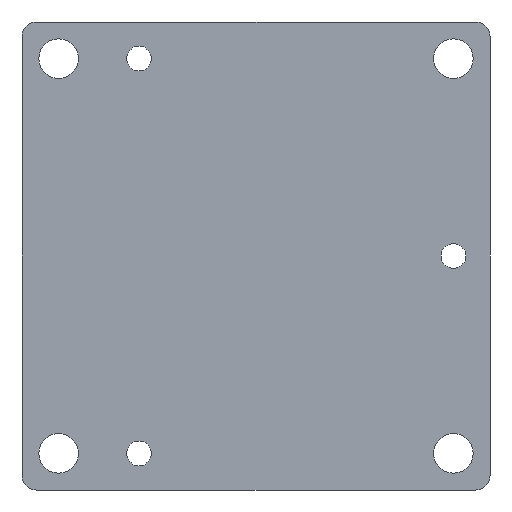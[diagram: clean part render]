
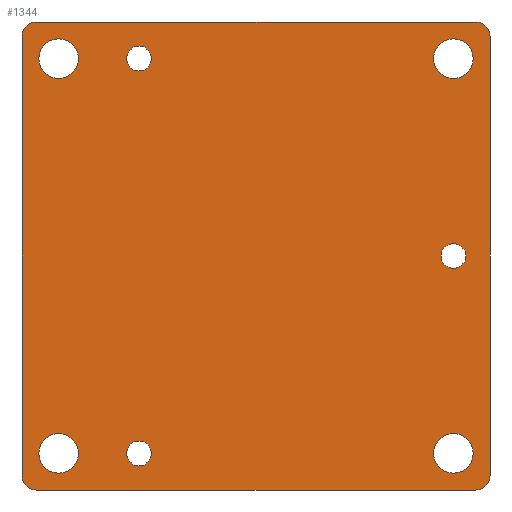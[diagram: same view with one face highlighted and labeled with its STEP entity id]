
A CAD part, front view. The second image highlights one B-rep face of the part: STEP entity #1344.
In plain terms, the highlighted planar face has unit normal (0, -1, 0).
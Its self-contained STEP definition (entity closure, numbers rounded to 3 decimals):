
#15 = CARTESIAN_POINT ( 'NONE',  ( -80., 0., -75. ) ) ;
#36 = CARTESIAN_POINT ( 'NONE',  ( 80., 0., 75. ) ) ;
#37 = DIRECTION ( 'NONE',  ( 1., 0., 0. ) ) ;
#39 = AXIS2_PLACEMENT_3D ( 'NONE', #1432, #776, #511 ) ;
#43 = FACE_BOUND ( 'NONE', #1324, .T. ) ;
#57 = CARTESIAN_POINT ( 'NONE',  ( 80., 0., 80. ) ) ;
#59 = EDGE_CURVE ( 'NONE', #1317, #762, #584, .T. ) ;
#60 = DIRECTION ( 'NONE',  ( 0., 1., 0. ) ) ;
#63 = FACE_BOUND ( 'NONE', #978, .T. ) ;
#65 = ORIENTED_EDGE ( 'NONE', *, *, #1237, .T. ) ;
#67 = AXIS2_PLACEMENT_3D ( 'NONE', #720, #289, #834 ) ;
#70 = AXIS2_PLACEMENT_3D ( 'NONE', #307, #617, #747 ) ;
#72 = VERTEX_POINT ( 'NONE', #866 ) ;
#74 = CARTESIAN_POINT ( 'NONE',  ( -75., 0., 75. ) ) ;
#81 = VERTEX_POINT ( 'NONE', #964 ) ;
#98 = VECTOR ( 'NONE', #1290, 1000. ) ;
#101 = ORIENTED_EDGE ( 'NONE', *, *, #723, .T. ) ;
#104 = EDGE_LOOP ( 'NONE', ( #1431, #65, #1293, #101, #1095, #1057, #552, #279 ) ) ;
#111 = CARTESIAN_POINT ( 'NONE',  ( 67.5, 0., 67.5 ) ) ;
#133 = VERTEX_POINT ( 'NONE', #15 ) ;
#141 = CARTESIAN_POINT ( 'NONE',  ( -35.75, 0., 67.5 ) ) ;
#161 = VECTOR ( 'NONE', #593, 1000. ) ;
#171 = FACE_BOUND ( 'NONE', #1265, .T. ) ;
#175 = CARTESIAN_POINT ( 'NONE',  ( -67.5, 0., 67.5 ) ) ;
#177 = PLANE ( 'NONE',  #696 ) ;
#187 = ORIENTED_EDGE ( 'NONE', *, *, #416, .T. ) ;
#210 = ORIENTED_EDGE ( 'NONE', *, *, #1241, .T. ) ;
#213 = EDGE_LOOP ( 'NONE', ( #758 ) ) ;
#237 = EDGE_CURVE ( 'NONE', #72, #72, #702, .T. ) ;
#240 = DIRECTION ( 'NONE',  ( 0., -1., 0. ) ) ;
#279 = ORIENTED_EDGE ( 'NONE', *, *, #934, .T. ) ;
#289 = DIRECTION ( 'NONE',  ( 0., 1., 0. ) ) ;
#307 = CARTESIAN_POINT ( 'NONE',  ( 67.5, 0., 0. ) ) ;
#310 = AXIS2_PLACEMENT_3D ( 'NONE', #111, #415, #1302 ) ;
#311 = VERTEX_POINT ( 'NONE', #536 ) ;
#314 = VERTEX_POINT ( 'NONE', #329 ) ;
#329 = CARTESIAN_POINT ( 'NONE',  ( 75., 0., -80. ) ) ;
#333 = VECTOR ( 'NONE', #1313, 1000. ) ;
#335 = AXIS2_PLACEMENT_3D ( 'NONE', #1200, #1427, #1062 ) ;
#337 = VECTOR ( 'NONE', #1112, 1000. ) ;
#343 = EDGE_CURVE ( 'NONE', #631, #631, #466, .T. ) ;
#390 = CIRCLE ( 'NONE', #67, 4.25 ) ;
#410 = CARTESIAN_POINT ( 'NONE',  ( 74.25, 0., -67.5 ) ) ;
#415 = DIRECTION ( 'NONE',  ( 0., 1., 0. ) ) ;
#416 = EDGE_CURVE ( 'NONE', #81, #81, #1118, .T. ) ;
#431 = DIRECTION ( 'NONE',  ( 0., 1., 0. ) ) ;
#458 = ORIENTED_EDGE ( 'NONE', *, *, #343, .T. ) ;
#463 = CIRCLE ( 'NONE', #70, 4.25 ) ;
#466 = CIRCLE ( 'NONE', #1161, 6.75 ) ;
#475 = EDGE_CURVE ( 'NONE', #1405, #1405, #603, .T. ) ;
#476 = CARTESIAN_POINT ( 'NONE',  ( -75., 0., 80. ) ) ;
#490 = CARTESIAN_POINT ( 'NONE',  ( 75., 0., 80. ) ) ;
#495 = FACE_OUTER_BOUND ( 'NONE', #104, .T. ) ;
#496 = DIRECTION ( 'NONE',  ( 0., -1., 0. ) ) ;
#497 = EDGE_LOOP ( 'NONE', ( #781 ) ) ;
#507 = EDGE_CURVE ( 'NONE', #314, #513, #1277, .T. ) ;
#511 = DIRECTION ( 'NONE',  ( 1., 0., 0. ) ) ;
#513 = VERTEX_POINT ( 'NONE', #731 ) ;
#536 = CARTESIAN_POINT ( 'NONE',  ( 71.75, 0., 0. ) ) ;
#549 = EDGE_CURVE ( 'NONE', #311, #311, #463, .T. ) ;
#552 = ORIENTED_EDGE ( 'NONE', *, *, #920, .F. ) ;
#560 = CARTESIAN_POINT ( 'NONE',  ( -75., 0., -75. ) ) ;
#561 = LINE ( 'NONE', #785, #333 ) ;
#581 = AXIS2_PLACEMENT_3D ( 'NONE', #175, #60, #1278 ) ;
#584 = LINE ( 'NONE', #685, #337 ) ;
#593 = DIRECTION ( 'NONE',  ( 1., 0., 0. ) ) ;
#599 = ORIENTED_EDGE ( 'NONE', *, *, #237, .T. ) ;
#603 = CIRCLE ( 'NONE', #335, 6.75 ) ;
#614 = CARTESIAN_POINT ( 'NONE',  ( 80., 0., 80. ) ) ;
#617 = DIRECTION ( 'NONE',  ( 0., 1., 0. ) ) ;
#631 = VERTEX_POINT ( 'NONE', #743 ) ;
#638 = EDGE_CURVE ( 'NONE', #133, #1109, #561, .T. ) ;
#643 = DIRECTION ( 'NONE',  ( 1., 0., 0. ) ) ;
#685 = CARTESIAN_POINT ( 'NONE',  ( 80., 0., 80. ) ) ;
#696 = AXIS2_PLACEMENT_3D ( 'NONE', #614, #1058, #1260 ) ;
#699 = DIRECTION ( 'NONE',  ( 1., 0., 0. ) ) ;
#702 = CIRCLE ( 'NONE', #581, 6.75 ) ;
#709 = VERTEX_POINT ( 'NONE', #476 ) ;
#720 = CARTESIAN_POINT ( 'NONE',  ( -40., 0., -67.5 ) ) ;
#723 = EDGE_CURVE ( 'NONE', #314, #762, #861, .T. ) ;
#731 = CARTESIAN_POINT ( 'NONE',  ( -75., 0., -80. ) ) ;
#740 = AXIS2_PLACEMENT_3D ( 'NONE', #74, #496, #1275 ) ;
#743 = CARTESIAN_POINT ( 'NONE',  ( -60.75, 0., -67.5 ) ) ;
#747 = DIRECTION ( 'NONE',  ( 1., 0., 0. ) ) ;
#758 = ORIENTED_EDGE ( 'NONE', *, *, #549, .T. ) ;
#762 = VERTEX_POINT ( 'NONE', #917 ) ;
#776 = DIRECTION ( 'NONE',  ( 0., -1., 0. ) ) ;
#781 = ORIENTED_EDGE ( 'NONE', *, *, #475, .T. ) ;
#785 = CARTESIAN_POINT ( 'NONE',  ( -80., 0., 80. ) ) ;
#788 = VERTEX_POINT ( 'NONE', #1333 ) ;
#790 = DIRECTION ( 'NONE',  ( 1., 0., 0. ) ) ;
#800 = CARTESIAN_POINT ( 'NONE',  ( 75., 0., -75. ) ) ;
#816 = AXIS2_PLACEMENT_3D ( 'NONE', #800, #1034, #37 ) ;
#832 = CIRCLE ( 'NONE', #1269, 5. ) ;
#834 = DIRECTION ( 'NONE',  ( 1., 0., 0. ) ) ;
#842 = EDGE_LOOP ( 'NONE', ( #187 ) ) ;
#853 = CIRCLE ( 'NONE', #740, 5. ) ;
#861 = CIRCLE ( 'NONE', #816, 5. ) ;
#866 = CARTESIAN_POINT ( 'NONE',  ( -60.75, 0., 67.5 ) ) ;
#893 = VERTEX_POINT ( 'NONE', #490 ) ;
#896 = CARTESIAN_POINT ( 'NONE',  ( -40., 0., 67.5 ) ) ;
#917 = CARTESIAN_POINT ( 'NONE',  ( 80., 0., -75. ) ) ;
#920 = EDGE_CURVE ( 'NONE', #709, #893, #1059, .T. ) ;
#934 = EDGE_CURVE ( 'NONE', #709, #1109, #853, .T. ) ;
#942 = FACE_BOUND ( 'NONE', #1174, .T. ) ;
#964 = CARTESIAN_POINT ( 'NONE',  ( 74.25, 0., 67.5 ) ) ;
#978 = EDGE_LOOP ( 'NONE', ( #458 ) ) ;
#980 = CARTESIAN_POINT ( 'NONE',  ( -67.5, 0., -67.5 ) ) ;
#1004 = VERTEX_POINT ( 'NONE', #141 ) ;
#1034 = DIRECTION ( 'NONE',  ( 0., -1., 0. ) ) ;
#1052 = ORIENTED_EDGE ( 'NONE', *, *, #1281, .T. ) ;
#1053 = FACE_BOUND ( 'NONE', #213, .T. ) ;
#1057 = ORIENTED_EDGE ( 'NONE', *, *, #1434, .T. ) ;
#1058 = DIRECTION ( 'NONE',  ( 0., 1., 0. ) ) ;
#1059 = LINE ( 'NONE', #57, #161 ) ;
#1062 = DIRECTION ( 'NONE',  ( 1., 0., 0. ) ) ;
#1088 = CIRCLE ( 'NONE', #1383, 4.25 ) ;
#1095 = ORIENTED_EDGE ( 'NONE', *, *, #59, .F. ) ;
#1109 = VERTEX_POINT ( 'NONE', #1321 ) ;
#1112 = DIRECTION ( 'NONE',  ( 0., 0., -1. ) ) ;
#1118 = CIRCLE ( 'NONE', #310, 6.75 ) ;
#1157 = CIRCLE ( 'NONE', #39, 5. ) ;
#1161 = AXIS2_PLACEMENT_3D ( 'NONE', #980, #431, #643 ) ;
#1174 = EDGE_LOOP ( 'NONE', ( #210 ) ) ;
#1200 = CARTESIAN_POINT ( 'NONE',  ( 67.5, 0., -67.5 ) ) ;
#1237 = EDGE_CURVE ( 'NONE', #133, #513, #832, .T. ) ;
#1241 = EDGE_CURVE ( 'NONE', #1004, #1004, #1088, .T. ) ;
#1260 = DIRECTION ( 'NONE',  ( 1., 0., 0. ) ) ;
#1265 = EDGE_LOOP ( 'NONE', ( #1052 ) ) ;
#1269 = AXIS2_PLACEMENT_3D ( 'NONE', #560, #240, #699 ) ;
#1275 = DIRECTION ( 'NONE',  ( 1., 0., 0. ) ) ;
#1277 = LINE ( 'NONE', #1401, #98 ) ;
#1278 = DIRECTION ( 'NONE',  ( 1., 0., 0. ) ) ;
#1281 = EDGE_CURVE ( 'NONE', #788, #788, #390, .T. ) ;
#1290 = DIRECTION ( 'NONE',  ( -1., 0., 0. ) ) ;
#1293 = ORIENTED_EDGE ( 'NONE', *, *, #507, .F. ) ;
#1302 = DIRECTION ( 'NONE',  ( 1., 0., 0. ) ) ;
#1313 = DIRECTION ( 'NONE',  ( 0., 0., 1. ) ) ;
#1317 = VERTEX_POINT ( 'NONE', #36 ) ;
#1321 = CARTESIAN_POINT ( 'NONE',  ( -80., 0., 75. ) ) ;
#1324 = EDGE_LOOP ( 'NONE', ( #599 ) ) ;
#1333 = CARTESIAN_POINT ( 'NONE',  ( -35.75, 0., -67.5 ) ) ;
#1334 = DIRECTION ( 'NONE',  ( 0., 1., 0. ) ) ;
#1344 = ADVANCED_FACE ( 'NONE', ( #171, #942, #1053, #1361, #1379, #63, #43, #495 ), #177, .F. ) ;
#1361 = FACE_BOUND ( 'NONE', #842, .T. ) ;
#1379 = FACE_BOUND ( 'NONE', #497, .T. ) ;
#1383 = AXIS2_PLACEMENT_3D ( 'NONE', #896, #1334, #790 ) ;
#1401 = CARTESIAN_POINT ( 'NONE',  ( 80., 0., -80. ) ) ;
#1405 = VERTEX_POINT ( 'NONE', #410 ) ;
#1427 = DIRECTION ( 'NONE',  ( 0., 1., 0. ) ) ;
#1431 = ORIENTED_EDGE ( 'NONE', *, *, #638, .F. ) ;
#1432 = CARTESIAN_POINT ( 'NONE',  ( 75., 0., 75. ) ) ;
#1434 = EDGE_CURVE ( 'NONE', #1317, #893, #1157, .T. ) ;
